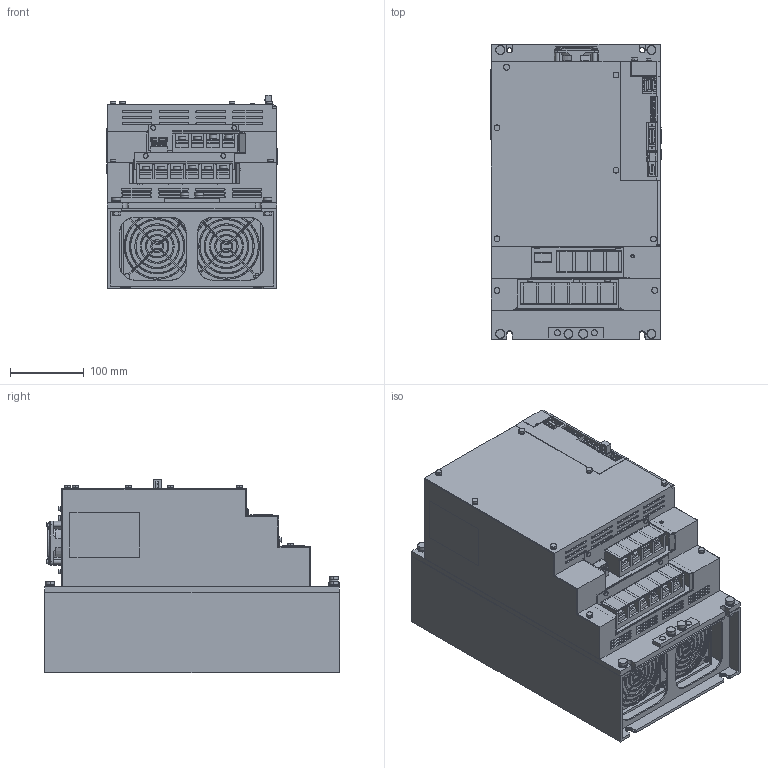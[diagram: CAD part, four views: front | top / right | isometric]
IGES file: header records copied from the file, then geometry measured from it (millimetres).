
Start section: SolidWorks IGES file using analytic representation for surfaces
Global section: file name: C:\YASKAWA\sgdv_370d1_a.IGS; native system: SolidWorks 2006 by SolidWorks Corporation; preprocessor: SolidWorks 2006 by SolidWorks Corporation; author: yamanouchi; date: 090513.221604; units: millimetre
Bounding box: 230.6 x 400 x 263 mm (x, y, z)
Surface area: 799983.6 mm2 (no closed solid volume)
Topology: 0 solids, 0 shells, 2748 faces, 30903 edges, 30903 vertices
Faces by surface type: bspline 2196, revolution 552
